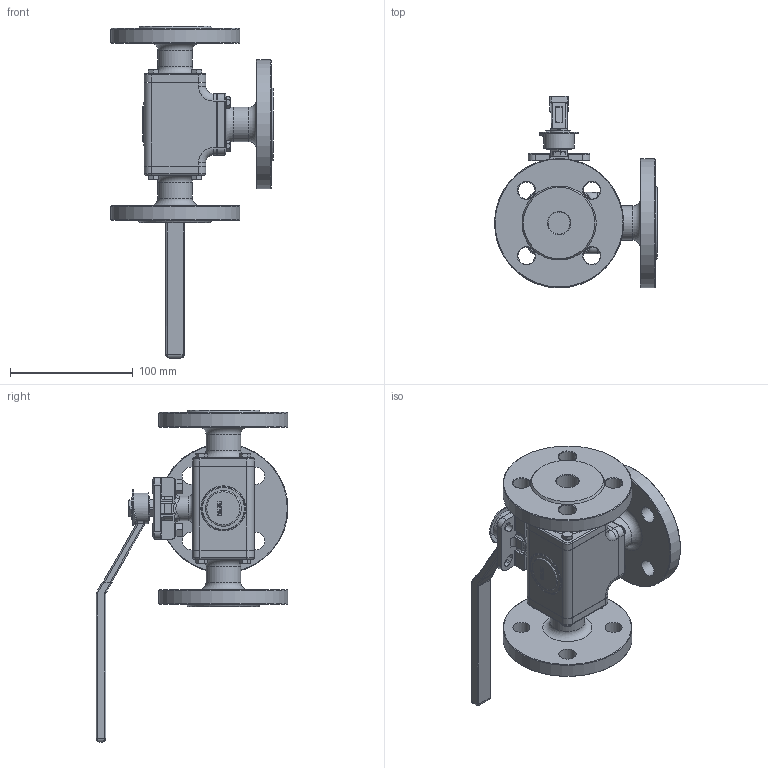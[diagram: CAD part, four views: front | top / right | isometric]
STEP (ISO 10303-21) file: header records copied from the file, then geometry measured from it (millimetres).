
FILE_DESCRIPTION(('STEP AP242'), '1');
FILE_NAME('BV3232P(4pc)-FP-3WL-F-ISO-H Êðàí øàðîâîé DN.ru Äó20 Ðó16', '', ('UNSPECIFIED'), ('UNSPECIFIED'), 'C3D Converter', 'C3D Toolkit', '');
FILE_SCHEMA(('AP242_MANAGED_MODEL_BASED_3D_ENGINEERING_MIM_LF { 1 0 10303 442 1 1 4 }'));
Length unit declared in the file: millimetre
Products named in the file (1): BV3232P(4pc)-FP-3WL-F-ISO-H
Bounding box: 132.5 x 156 x 270 mm (x, y, z)
Volume: 622718.1 mm3; surface area: 134957.6 mm2
Topology: 1 solids, 14 shells, 933 faces, 2295 edges, 1427 vertices
Faces by surface type: plane 477, cylinder 219, cone 136, bspline 59, torus 42
Full cylindrical faces by diameter (mm): 1.119 x2, 2 x1, 4.917 x2, 5 x24, 6 x14, 8 x12, 10 x2, 14 x12, 16 x1, 18 x3, 20 x2, 25 x1, 28 x3, 30 x3, 105 x3
Entity records: 45221 total; most frequent: CARTESIAN_POINT 19513, ORIENTED_EDGE 4332, DIRECTION 4218, EDGE_CURVE 2166, AXIS2_PLACEMENT_3D 1596, VERTEX_POINT 1427, EDGE_LOOP 1191, LINE 1026
